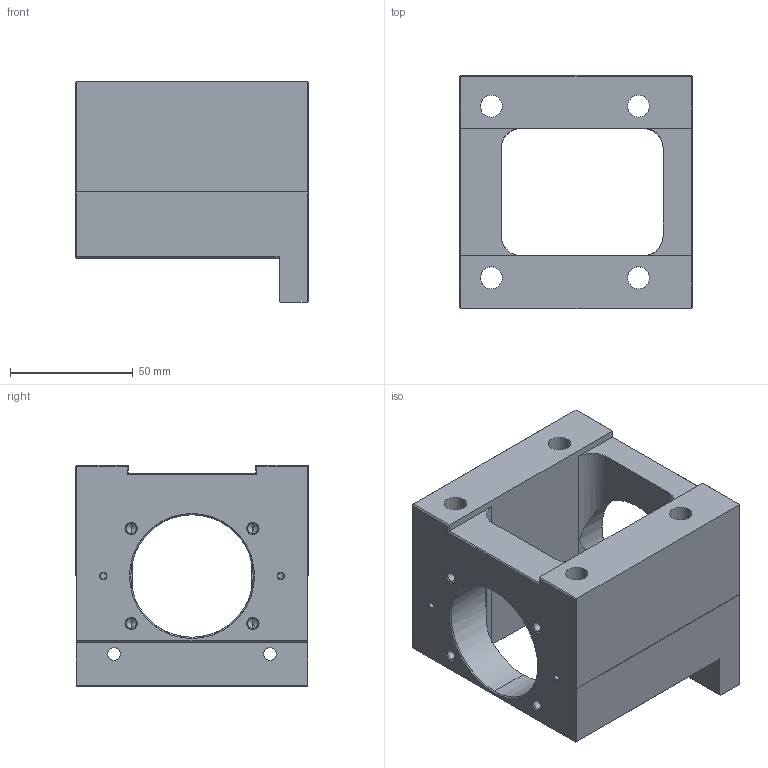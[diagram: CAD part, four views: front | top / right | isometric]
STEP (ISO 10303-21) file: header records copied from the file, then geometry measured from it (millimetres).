
FILE_DESCRIPTION (( 'STEP AP203' ), '1' );
FILE_NAME ('MBH15H-E.STEP', '2017-12-28T06:27:36', ( '' ), ( '' ), 'SwSTEP 2.0', 'SolidWorks 2017', '' );
FILE_SCHEMA (( 'CONFIG_CONTROL_DESIGN' ));
Length unit declared in the file: millimetre
Products named in the file (1): MBH15H-E
Bounding box: 95 x 95 x 90 mm (x, y, z)
Volume: 318956.7 mm3; surface area: 66431.5 mm2
Topology: 1 solids, 1 shells, 166 faces, 418 edges, 243 vertices
Faces by surface type: cone 62, cylinder 56, plane 48
Entity records: 5087 total; most frequent: CARTESIAN_POINT 1028, DIRECTION 868, ORIENTED_EDGE 796, EDGE_CURVE 398, AXIS2_PLACEMENT_3D 319, VERTEX_POINT 243, LINE 230, VECTOR 230
